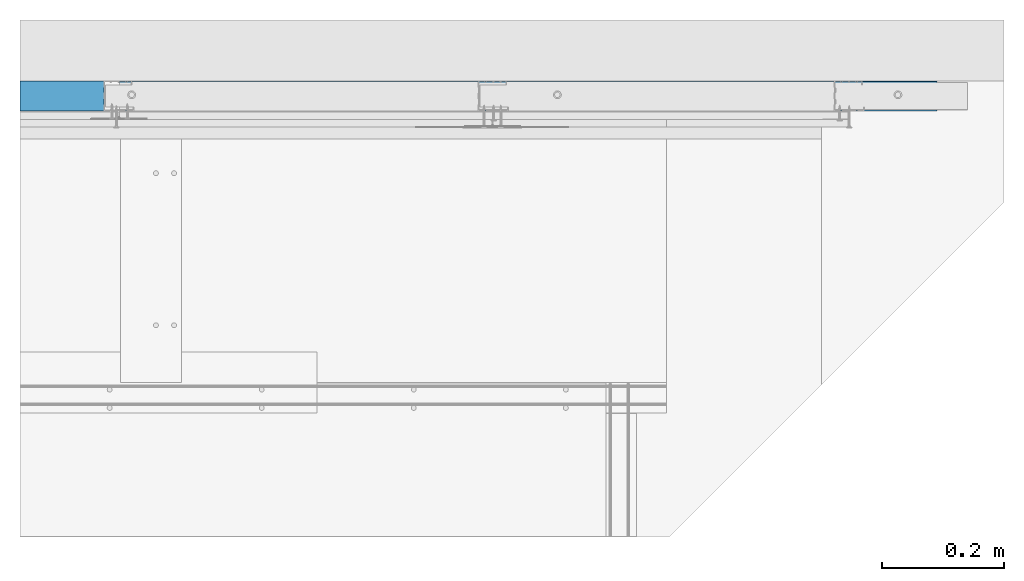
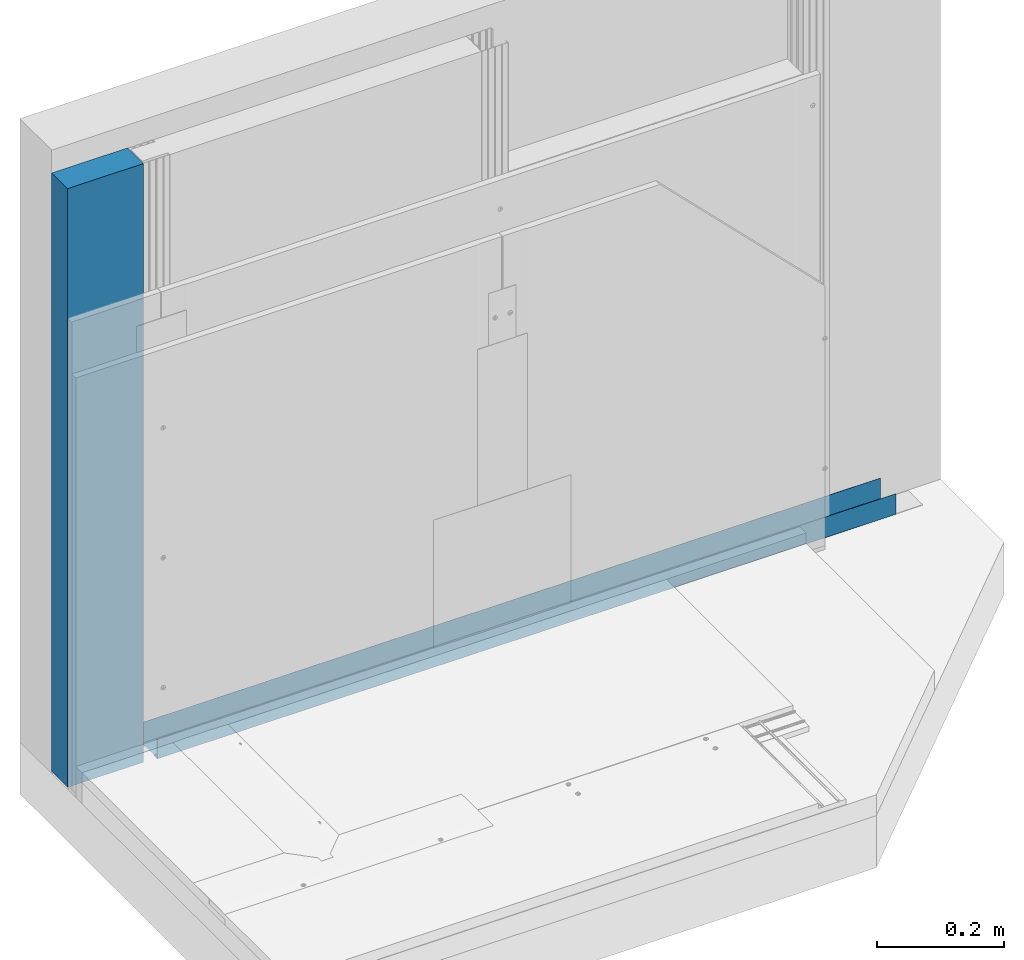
# One storey, part 15 of 38: 2 walls.
"""IFC2X3 building model written with IfcOpenShell, lengths in millimetres."""

from ifc_helpers import new_model, entity, si_unit, converted_unit, direction, frame, origin, origin_with_axes, place, context, project, spatial, faceted_brep, element, save


model = new_model("IFC2X3")

# Units and contexts
model_context = context("Model", 3, precision=1e-05, world=origin(), true_north=direction((0.0, 1.0, 0.0)))
ifc_project = project(units=[si_unit("LENGTHUNIT", "METRE", prefix="MILLI"), si_unit("AREAUNIT", "SQUARE_METRE"), si_unit("VOLUMEUNIT", "CUBIC_METRE"), converted_unit("PLANEANGLEUNIT", "DEGREE", entity("IfcPlaneAngleMeasure", 0.01745), si_unit("PLANEANGLEUNIT", "RADIAN"), dimensions=[0, 0, 0, 0, 0, 0, 0]), si_unit("SOLIDANGLEUNIT", "STERADIAN"), si_unit("MASSUNIT", "GRAM"), si_unit("TIMEUNIT", "SECOND"), si_unit("THERMODYNAMICTEMPERATUREUNIT", "DEGREE_CELSIUS"), si_unit("LUMINOUSINTENSITYUNIT", "LUMEN")], contexts=[model_context])

# Site, building, storey
site_placement = place(None, origin_with_axes())
site = spatial("IfcSite", under=ifc_project, at=site_placement, Name="Default Site", CompositionType="ELEMENT")
building_placement = place(site_placement, origin_with_axes())
building = spatial("IfcBuilding", under=site, at=building_placement, Name="Default Building", CompositionType="ELEMENT")
storey_placement = place(building_placement, origin_with_axes())
storey = spatial("IfcBuildingStorey", under=building, at=storey_placement, Name="Default Building Storey", CompositionType="ELEMENT", Elevation=0.0)

# Walls
wall_1_placement = place(storey_placement, frame((3404.273528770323, 5452.424146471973, 8.390395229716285), z_axis=(7.620176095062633e-14, -6.858158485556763e-13, 1.0), x_axis=(1.0, -9.714451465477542e-17, -7.620176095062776e-14)))
element("IfcWall", 1, at=wall_1_placement, inside=storey, Name="Profil RIGIPS UW50 ULTRASTIL®", context=model_context, shape_type="Brep", body=[
    faceted_brep([(228.7670894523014, -3480.283223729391, -4.200000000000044), (228.7670894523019, -3480.283223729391, 35.0), (228.7670894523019, -3479.733223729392, 35.0), (228.7670894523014, -3479.733223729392, -4.200000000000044), (228.7670894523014, -3479.730145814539, -4.239108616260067), (228.7670894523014, -3479.720987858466, -4.277254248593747), (228.7670894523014, -3479.705975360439, -4.313497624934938), (228.7670894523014, -3479.685477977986, -4.346946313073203), (228.7670894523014, -3479.660000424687, -4.376776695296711), (228.7670894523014, -3479.630170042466, -4.402254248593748), (228.7670894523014, -3479.596721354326, -4.422751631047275), (228.7670894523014, -3479.560477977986, -4.43776412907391), (228.7670894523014, -3479.522332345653, -4.44692208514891), (228.7670894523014, -3479.483223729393, -4.450000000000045), (228.7670894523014, -3471.252589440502, -4.450000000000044), (228.7670894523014, -3471.030892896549, -4.425115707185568), (228.7670894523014, -3470.820229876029, -4.3517012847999), (228.7670894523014, -3470.631084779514, -4.233410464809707), (228.7670894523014, -3470.472871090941, -4.076130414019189), (228.7670894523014, -3470.353462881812, -3.887688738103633), (228.7670894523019, -3470.024693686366, -3.212311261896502), (228.7670894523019, -3469.905285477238, -3.023869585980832), (228.7670894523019, -3469.55792669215, -2.748298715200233), (228.7670894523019, -3469.347263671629, -2.674884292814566), (228.7670894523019, -3469.125567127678, -2.649999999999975), (228.7670894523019, -3441.440880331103, -2.650000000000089), (228.7670894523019, -3441.219183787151, -2.674884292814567), (228.7670894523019, -3440.819375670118, -2.866589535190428), (228.7670894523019, -3440.661161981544, -3.023869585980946), (228.7670894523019, -3440.541753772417, -3.212311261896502), (228.7670894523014, -3440.212984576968, -3.887688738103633), (228.7670894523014, -3440.093576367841, -4.076130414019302), (228.7670894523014, -3439.935362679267, -4.233410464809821), (228.7670894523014, -3439.746217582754, -4.3517012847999), (228.7670894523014, -3439.535554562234, -4.425115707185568), (228.7670894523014, -3439.313858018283, -4.450000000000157), (228.7670894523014, -3431.083223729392, -4.450000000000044), (228.7670894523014, -3431.044115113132, -4.446922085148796), (228.7670894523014, -3431.005969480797, -4.437764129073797), (228.7670894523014, -3430.969726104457, -4.42275163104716), (228.7670894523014, -3430.936277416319, -4.402254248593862), (228.7670894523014, -3430.906447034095, -4.376776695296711), (228.7670894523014, -3430.880969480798, -4.346946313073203), (228.7670894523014, -3430.860472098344, -4.313497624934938), (228.7670894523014, -3430.845459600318, -4.277254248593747), (228.7670894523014, -3430.836301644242, -4.239108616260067), (228.7670894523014, -3430.833223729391, -4.200000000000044), (228.7670894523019, -3430.833223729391, 35.0), (228.7670894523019, -3430.283223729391, 35.0), (228.7670894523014, -3430.283223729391, -4.200000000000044), (228.7670894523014, -3430.293073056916, -4.325147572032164), (228.7670894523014, -3430.322378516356, -4.447213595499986), (228.7670894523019, -3430.370418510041, -4.563192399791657), (228.7670894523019, -3430.436010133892, -4.670228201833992), (228.7670894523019, -3430.517538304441, -4.765685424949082), (228.7670894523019, -3430.612995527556, -4.847213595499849), (228.7670894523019, -3430.720031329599, -4.912805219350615), (228.7670894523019, -3430.836010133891, -4.960845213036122), (228.7670894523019, -3430.958076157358, -4.990150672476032), (228.7670894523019, -3431.083223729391, -4.999999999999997), (228.7670894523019, -3439.657826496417, -4.999999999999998), (228.7670894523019, -3439.879523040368, -4.975115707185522), (228.7670894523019, -3440.279331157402, -4.783410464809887), (228.7670894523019, -3440.437544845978, -4.626130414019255), (228.7670894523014, -3440.556953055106, -4.437688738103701), (228.7670894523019, -3440.885722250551, -3.762311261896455), (228.7670894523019, -3441.005130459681, -3.573869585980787), (228.7670894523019, -3441.163344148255, -3.416589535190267), (228.7670894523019, -3441.352489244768, -3.298298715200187), (228.7670894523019, -3441.563152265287, -3.22488429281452), (228.7670894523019, -3441.78484880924, -3.199999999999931), (228.7670894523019, -3468.781598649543, -3.200000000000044), (228.7670894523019, -3469.003295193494, -3.22488429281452), (228.7670894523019, -3469.213958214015, -3.298298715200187), (228.7670894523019, -3469.403103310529, -3.41658953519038), (228.7670894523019, -3469.561316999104, -3.5738695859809), (228.7670894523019, -3469.680725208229, -3.762311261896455), (228.7670894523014, -3470.009494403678, -4.437688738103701), (228.7670894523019, -3470.128902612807, -4.626130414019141), (228.7670894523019, -3470.476261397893, -4.901701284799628), (228.7670894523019, -3470.686924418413, -4.975115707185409), (228.7670894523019, -3470.908620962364, -4.999999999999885), (228.7670894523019, -3479.483223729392, -4.999999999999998), (228.7670894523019, -3479.608371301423, -4.990150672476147), (228.7670894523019, -3479.730437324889, -4.960845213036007), (228.7670894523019, -3479.846416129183, -4.912805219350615), (228.7670894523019, -3479.953451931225, -4.847213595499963), (228.7670894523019, -3480.04890915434, -4.765685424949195), (228.7670894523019, -3480.130437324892, -4.670228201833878), (228.7670894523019, -3480.196028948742, -4.563192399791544), (228.7670894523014, -3480.244068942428, -4.447213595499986), (228.7670894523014, -3480.273374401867, -4.325147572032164), (-1115.843880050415, -3479.733223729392, 35.00000000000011), (-1115.843880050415, -3480.283223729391, 35.00000000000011), (-1115.843880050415, -3480.283223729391, -4.199999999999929), (-1115.843880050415, -3480.273374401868, -4.32514757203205), (-1115.843880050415, -3480.244068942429, -4.447213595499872), (-1115.843880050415, -3480.196028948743, -4.56319239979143), (-1115.843880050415, -3480.130437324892, -4.670228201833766), (-1115.843880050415, -3480.04890915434, -4.765685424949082), (-1115.843880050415, -3479.953451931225, -4.847213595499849), (-1115.843880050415, -3479.846416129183, -4.9128052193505), (-1115.843880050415, -3479.730437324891, -4.960845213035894), (-1115.843880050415, -3479.608371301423, -4.990150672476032), (-1115.843880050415, -3479.483223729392, -4.999999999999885), (-1115.843880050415, -3470.908620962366, -4.999999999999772), (-1115.843880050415, -3470.686924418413, -4.975115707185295), (-1115.843880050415, -3470.476261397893, -4.901701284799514), (-1115.843880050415, -3470.128902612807, -4.626130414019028), (-1115.843880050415, -3470.009494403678, -4.437688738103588), (-1115.843880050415, -3469.680725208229, -3.762311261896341), (-1115.843880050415, -3469.561316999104, -3.573869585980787), (-1115.843880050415, -3469.403103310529, -3.416589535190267), (-1115.843880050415, -3469.213958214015, -3.298298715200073), (-1115.843880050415, -3469.003295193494, -3.224884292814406), (-1115.843880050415, -3468.781598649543, -3.19999999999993), (-1115.843880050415, -3441.78484880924, -3.199999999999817), (-1115.843880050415, -3441.563152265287, -3.224884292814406), (-1115.843880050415, -3441.352489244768, -3.298298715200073), (-1115.843880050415, -3441.163344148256, -3.416589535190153), (-1115.843880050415, -3441.005130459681, -3.573869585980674), (-1115.843880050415, -3440.885722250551, -3.762311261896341), (-1115.843880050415, -3440.556953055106, -4.437688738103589), (-1115.843880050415, -3440.437544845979, -4.626130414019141), (-1115.843880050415, -3440.279331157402, -4.783410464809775), (-1115.843880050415, -3439.87952304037, -4.97511570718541), (-1115.843880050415, -3439.657826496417, -4.999999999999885), (-1115.843880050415, -3431.083223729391, -4.999999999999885), (-1115.843880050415, -3430.95807615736, -4.990150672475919), (-1115.843880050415, -3430.836010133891, -4.960845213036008), (-1115.843880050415, -3430.720031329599, -4.9128052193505), (-1115.843880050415, -3430.612995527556, -4.847213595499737), (-1115.843880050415, -3430.517538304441, -4.765685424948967), (-1115.843880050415, -3430.436010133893, -4.670228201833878), (-1115.843880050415, -3430.370418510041, -4.563192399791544), (-1115.843880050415, -3430.322378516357, -4.447213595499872), (-1115.843880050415, -3430.293073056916, -4.32514757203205), (-1115.843880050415, -3430.283223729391, -4.199999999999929), (-1115.843880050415, -3430.283223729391, 35.00000000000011), (-1115.843880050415, -3430.833223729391, 35.00000000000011), (-1115.843880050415, -3430.833223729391, -4.199999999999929), (-1115.843880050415, -3430.836301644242, -4.239108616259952), (-1115.843880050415, -3430.845459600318, -4.277254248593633), (-1115.843880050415, -3430.860472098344, -4.313497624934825), (-1115.843880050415, -3430.880969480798, -4.346946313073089), (-1115.843880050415, -3430.906447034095, -4.376776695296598), (-1115.843880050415, -3430.936277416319, -4.402254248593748), (-1115.843880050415, -3430.969726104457, -4.422751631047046), (-1115.843880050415, -3431.005969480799, -4.437764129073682), (-1115.843880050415, -3431.044115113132, -4.446922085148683), (-1115.843880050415, -3431.083223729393, -4.44999999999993), (-1115.843880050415, -3439.313858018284, -4.450000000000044), (-1115.843880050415, -3439.535554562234, -4.425115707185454), (-1115.843880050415, -3439.746217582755, -4.351701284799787), (-1115.843880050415, -3439.935362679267, -4.233410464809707), (-1115.843880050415, -3440.093576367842, -4.076130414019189), (-1115.843880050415, -3440.21298457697, -3.887688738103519), (-1115.843880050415, -3440.541753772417, -3.212311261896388), (-1115.843880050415, -3440.661161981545, -3.023869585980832), (-1115.843880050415, -3440.819375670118, -2.866589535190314), (-1115.843880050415, -3441.219183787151, -2.674884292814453), (-1115.843880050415, -3441.440880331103, -2.649999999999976), (-1115.843880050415, -3469.125567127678, -2.649999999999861), (-1115.843880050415, -3469.34726367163, -2.674884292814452), (-1115.843880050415, -3469.55792669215, -2.74829871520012), (-1115.843880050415, -3469.905285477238, -3.023869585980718), (-1115.843880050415, -3470.024693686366, -3.212311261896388), (-1115.843880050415, -3470.353462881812, -3.88768873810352), (-1115.843880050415, -3470.472871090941, -4.076130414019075), (-1115.843880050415, -3470.631084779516, -4.233410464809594), (-1115.843880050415, -3470.820229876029, -4.351701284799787), (-1115.843880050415, -3471.030892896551, -4.425115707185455), (-1115.843880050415, -3471.252589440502, -4.449999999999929), (-1115.843880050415, -3479.483223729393, -4.449999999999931), (-1115.843880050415, -3479.522332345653, -4.446922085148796), (-1115.843880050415, -3479.560477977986, -4.437764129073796), (-1115.843880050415, -3479.596721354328, -4.42275163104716), (-1115.843880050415, -3479.630170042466, -4.402254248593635), (-1115.843880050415, -3479.660000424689, -4.376776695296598), (-1115.843880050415, -3479.685477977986, -4.346946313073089), (-1115.843880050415, -3479.705975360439, -4.313497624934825), (-1115.843880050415, -3479.720987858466, -4.277254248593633), (-1115.843880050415, -3479.730145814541, -4.239108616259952), (-1115.843880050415, -3479.733223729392, -4.199999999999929), (-1115.843880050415, -3441.008520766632, -2.748298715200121), (228.7670894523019, -3441.008520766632, -2.748298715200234), (-1115.843880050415, -3469.747071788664, -2.866589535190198), (228.7670894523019, -3469.747071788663, -2.866589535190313), (-1115.843880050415, -3470.063927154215, -4.535249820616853), (228.7670894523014, -3470.063927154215, -4.535249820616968), (-1115.843880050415, -3470.287116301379, -4.783410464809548), (228.7670894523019, -3470.287116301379, -4.783410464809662), (-1115.843880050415, -3440.090186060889, -4.901701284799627), (228.7670894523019, -3440.090186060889, -4.901701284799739)], [[[0, 1, 2, 3, 4, 5, 6, 7, 8, 9, 10, 11, 12, 13, 14, 15, 16, 17, 18, 19, 20, 21, 22, 23, 24, 25, 26, 27, 28, 29, 30, 31, 32, 33, 34, 35, 36, 37, 38, 39, 40, 41, 42, 43, 44, 45, 46, 47, 48, 49, 50, 51, 52, 53, 54, 55, 56, 57, 58, 59, 60, 61, 62, 63, 64, 65, 66, 67, 68, 69, 70, 71, 72, 73, 74, 75, 76, 77, 78, 79, 80, 81, 82, 83, 84, 85, 86, 87, 88, 89, 90, 91]], [[92, 93, 94, 95, 96, 97, 98, 99, 100, 101, 102, 103, 104, 105, 106, 107, 108, 109, 110, 111, 112, 113, 114, 115, 116, 117, 118, 119, 120, 121, 122, 123, 124, 125, 126, 127, 128, 129, 130, 131, 132, 133, 134, 135, 136, 137, 138, 139, 140, 141, 142, 143, 144, 145, 146, 147, 148, 149, 150, 151, 152, 153, 154, 155, 156, 157, 158, 159, 160, 161, 162, 163, 164, 165, 166, 167, 168, 169, 170, 171, 172, 173, 174, 175, 176, 177, 178, 179, 180, 181, 182, 183]], [[137, 49, 48, 138]], [[138, 48, 47, 139]], [[139, 47, 46, 140]], [[36, 150, 149, 37]], [[148, 38, 37, 149]], [[147, 39, 38, 148]], [[39, 147, 146, 40]], [[145, 41, 40, 146]], [[41, 145, 144, 42]], [[143, 43, 42, 144]], [[142, 44, 43, 143]], [[44, 142, 141, 45]], [[140, 46, 45, 141]], [[150, 36, 35, 151]], [[155, 31, 30, 156]], [[154, 32, 31, 155]], [[153, 33, 32, 154]], [[35, 34, 152, 151]], [[152, 34, 33, 153]], [[156, 30, 29, 157]], [[160, 26, 25, 161]], [[184, 185, 26, 160]], [[159, 27, 185, 184]], [[158, 28, 27, 159]], [[29, 28, 158, 157]], [[161, 25, 24, 162]], [[165, 21, 20, 166]], [[186, 187, 21, 165]], [[164, 22, 187, 186]], [[163, 23, 22, 164]], [[24, 23, 163, 162]], [[166, 20, 19, 167]], [[171, 15, 14, 172]], [[170, 16, 15, 171]], [[169, 17, 16, 170]], [[19, 18, 168, 167]], [[168, 18, 17, 169]], [[172, 14, 13, 173]], [[3, 183, 182, 4]], [[181, 5, 4, 182]], [[180, 6, 5, 181]], [[6, 180, 179, 7]], [[178, 8, 7, 179]], [[8, 178, 177, 9]], [[176, 10, 9, 177]], [[175, 11, 10, 176]], [[11, 175, 174, 12]], [[173, 13, 12, 174]], [[183, 3, 2, 92]], [[92, 2, 1, 93]], [[93, 1, 0, 94]], [[103, 102, 84, 83]], [[83, 82, 104, 103]], [[101, 85, 84, 102]], [[100, 99, 87, 86]], [[86, 85, 101, 100]], [[98, 97, 89, 88]], [[88, 87, 99, 98]], [[96, 90, 89, 97]], [[95, 94, 0, 91]], [[91, 90, 96, 95]], [[104, 82, 81, 105]], [[188, 108, 78, 189]], [[189, 77, 109, 188]], [[190, 191, 78, 108]], [[107, 79, 191, 190]], [[106, 80, 79, 107]], [[81, 80, 106, 105]], [[109, 77, 76, 110]], [[114, 72, 71, 115]], [[113, 73, 72, 114]], [[112, 74, 73, 113]], [[76, 75, 111, 110]], [[111, 75, 74, 112]], [[115, 71, 70, 116]], [[120, 66, 65, 121]], [[119, 67, 66, 120]], [[118, 68, 67, 119]], [[70, 69, 117, 116]], [[117, 69, 68, 118]], [[121, 65, 64, 122]], [[125, 61, 60, 126]], [[192, 193, 61, 125]], [[124, 62, 193, 192]], [[123, 63, 62, 124]], [[64, 63, 123, 122]], [[126, 60, 59, 127]], [[136, 135, 51, 50]], [[50, 49, 137, 136]], [[134, 52, 51, 135]], [[133, 132, 54, 53]], [[53, 52, 134, 133]], [[131, 130, 56, 55]], [[55, 54, 132, 131]], [[129, 57, 56, 130]], [[128, 127, 59, 58]], [[58, 57, 129, 128]]]),
])
wall_2_placement = place(storey_placement, frame((935.9872247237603, -1459.142300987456, 8.731121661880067), z_axis=(-7.620176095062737e-14, 6.85815848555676e-13, 1.0), x_axis=(-1.0, 1.734723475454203e-16, -7.620176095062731e-14)))
element("IfcWall", 2, at=wall_2_placement, inside=storey, Name="Wełna mineralna szklana lub skalna ISOVER", context=model_context, shape_type="Brep", body=[
    faceted_brep([(-1189.0379087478, -3431.378708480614, 1149.659273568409), (-1189.037908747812, -3431.378708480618, -2.540726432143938), (-1189.037908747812, -3481.283223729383, -2.540726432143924), (-1189.0379087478, -3481.283223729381, 1149.659273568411), (-1326.882312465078, -3431.378708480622, 1149.659273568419), (-1326.88231246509, -3431.378708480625, -2.540726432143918), (-1326.882312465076, -3481.283223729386, 1149.659273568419), (-1309.923547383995, -3481.283223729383, 1149.659273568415), (-1326.882312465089, -3481.28322372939, -2.5407264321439), (-1309.923547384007, -3481.28322372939, -2.540726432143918)], [[[0, 1, 2, 3]], [[1, 0, 4, 5]], [[6, 4, 0, 3, 7]], [[6, 8, 5, 4]], [[8, 6, 7, 9]], [[3, 2, 9, 7]], [[8, 9, 2, 1, 5]]]),
])

save(model, "model.ifc")
